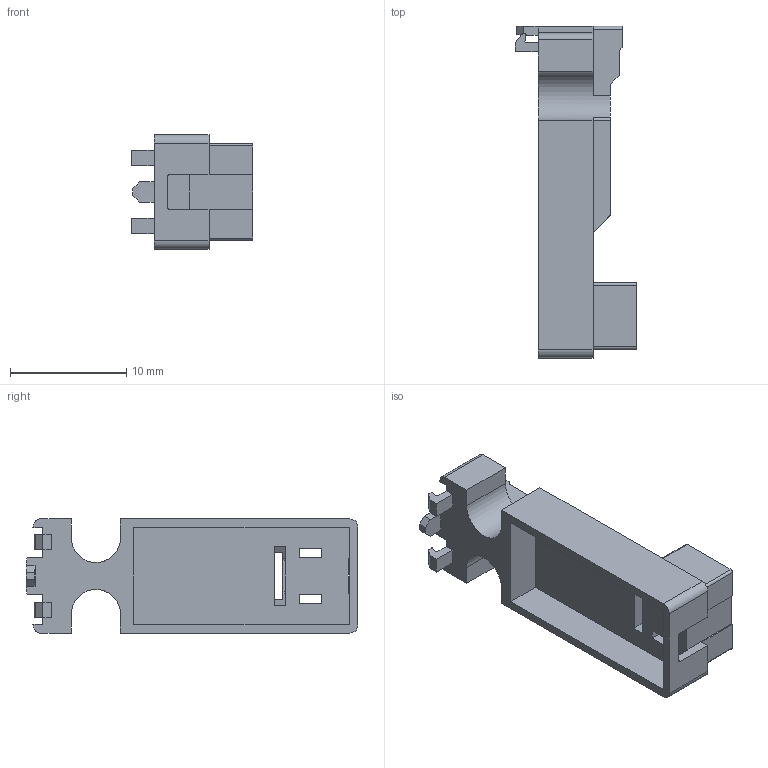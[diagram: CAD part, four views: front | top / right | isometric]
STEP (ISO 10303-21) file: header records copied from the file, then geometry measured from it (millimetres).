
FILE_DESCRIPTION (( 'STEP AP214' ), '1' );
FILE_NAME ('3779382 VUVG-LK-IP40.step', '2025-12-23T15:58:26', ( '' ), ( '' ), 'SwSTEP 2.0', 'SolidWorks 2026', '' );
FILE_SCHEMA (( 'AUTOMOTIVE_DESIGN' ));
Length unit declared in the file: millimetre
Products named in the file (1): 3779382 VUVG-LK-IP40
Bounding box: 10.42 x 28.5 x 9.8 mm (x, y, z)
Volume: 838.4 mm3; surface area: 1384.4 mm2
Topology: 1 solids, 1 shells, 126 faces, 370 edges, 245 vertices
Faces by surface type: plane 91, cylinder 35
Entity records: 4214 total; most frequent: CARTESIAN_POINT 754, ORIENTED_EDGE 740, DIRECTION 697, EDGE_CURVE 370, VECTOR 289, LINE 289, VERTEX_POINT 245, AXIS2_PLACEMENT_3D 204
